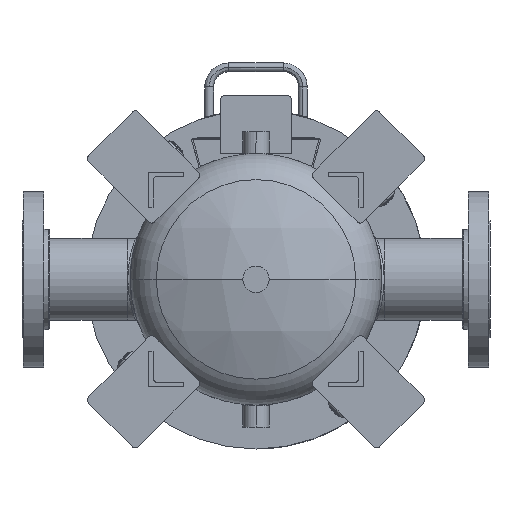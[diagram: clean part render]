
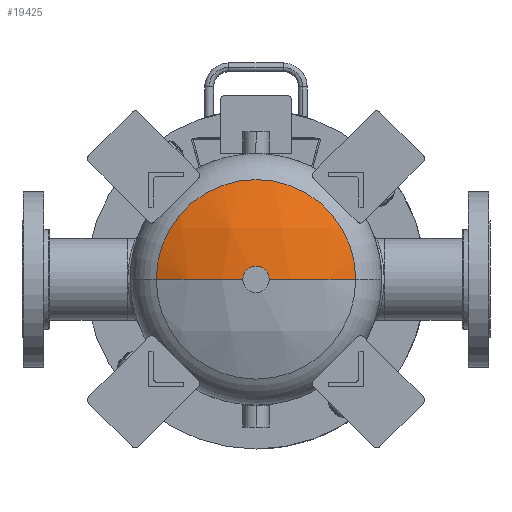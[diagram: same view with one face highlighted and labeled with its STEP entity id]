
A CAD part, front view. The second image highlights one B-rep face of the part: STEP entity #19425.
In plain terms, the highlighted spherical face has radius 246.156 mm.
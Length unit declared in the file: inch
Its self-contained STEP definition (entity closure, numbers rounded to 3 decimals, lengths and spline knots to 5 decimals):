
#318 = DIRECTION ( 'NONE',  ( 0., 0., -1. ) ) ;
#812 = AXIS2_PLACEMENT_3D ( 'NONE', #9850, #20551, #12302 ) ;
#2080 = AXIS2_PLACEMENT_3D ( 'NONE', #4549, #318, #15007 ) ;
#2958 = VERTEX_POINT ( 'NONE', #19531 ) ;
#3653 = DIRECTION ( 'NONE',  ( -1., 0., 0. ) ) ;
#4549 = CARTESIAN_POINT ( 'NONE',  ( 0., -47.43381, 0. ) ) ;
#6178 = ORIENTED_EDGE ( 'NONE', *, *, #14668, .F. ) ;
#6844 = CIRCLE ( 'NONE', #20877, 4.264 ) ;
#8187 = AXIS2_PLACEMENT_3D ( 'NONE', #19870, #26733, #3653 ) ;
#9850 = CARTESIAN_POINT ( 'NONE',  ( 0., -47.43381, 0. ) ) ;
#10080 = CARTESIAN_POINT ( 'NONE',  ( 4.264, -56.13654, 0. ) ) ;
#11944 = CARTESIAN_POINT ( 'NONE',  ( 0., -56.13654, 0. ) ) ;
#12051 = ORIENTED_EDGE ( 'NONE', *, *, #23382, .T. ) ;
#12302 = DIRECTION ( 'NONE',  ( 1., 0., 0. ) ) ;
#14263 = DIRECTION ( 'NONE',  ( 1., 0., 0. ) ) ;
#14668 = EDGE_CURVE ( 'NONE', #18893, #2958, #25769, .T. ) ;
#15007 = DIRECTION ( 'NONE',  ( -1., 0., 0. ) ) ;
#15158 = EDGE_LOOP ( 'NONE', ( #6178, #15978, #12051 ) ) ;
#15978 = ORIENTED_EDGE ( 'NONE', *, *, #17924, .T. ) ;
#16031 = SPHERICAL_SURFACE ( 'NONE', #8187, 9.69119 ) ;
#17924 = EDGE_CURVE ( 'NONE', #18893, #20136, #6844, .T. ) ;
#18893 = VERTEX_POINT ( 'NONE', #10080 ) ;
#19425 = ADVANCED_FACE ( 'NONE', ( #22479 ), #16031, .T. ) ;
#19531 = CARTESIAN_POINT ( 'NONE',  ( 0., -57.125, 0. ) ) ;
#19870 = CARTESIAN_POINT ( 'NONE',  ( 0., -47.43381, 0. ) ) ;
#20136 = VERTEX_POINT ( 'NONE', #23670 ) ;
#20551 = DIRECTION ( 'NONE',  ( 0., 0., 1. ) ) ;
#20877 = AXIS2_PLACEMENT_3D ( 'NONE', #11944, #24576, #14263 ) ;
#22479 = FACE_OUTER_BOUND ( 'NONE', #15158, .T. ) ;
#23382 = EDGE_CURVE ( 'NONE', #20136, #2958, #26690, .T. ) ;
#23670 = CARTESIAN_POINT ( 'NONE',  ( -4.264, -56.13654, 0. ) ) ;
#24576 = DIRECTION ( 'NONE',  ( 0., -1., 0. ) ) ;
#25769 = CIRCLE ( 'NONE', #2080, 9.69119 ) ;
#26690 = CIRCLE ( 'NONE', #812, 9.69119 ) ;
#26733 = DIRECTION ( 'NONE',  ( 0., 0., -1. ) ) ;
